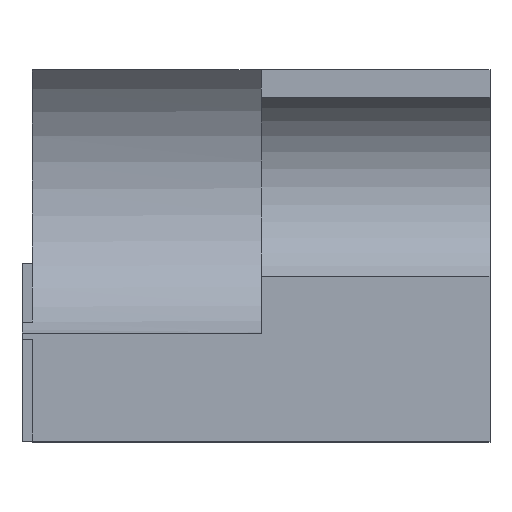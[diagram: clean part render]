
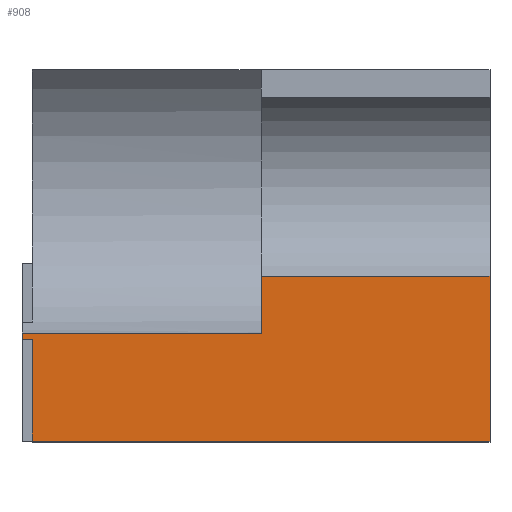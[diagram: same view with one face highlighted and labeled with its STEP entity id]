
A CAD part, top view. The second image highlights one B-rep face of the part: STEP entity #908.
In plain terms, the highlighted planar face has unit normal (0, 0, 1).
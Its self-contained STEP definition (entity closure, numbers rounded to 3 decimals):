
#62 = PLANE('',#63);
#63 = AXIS2_PLACEMENT_3D('',#64,#65,#66);
#64 = CARTESIAN_POINT('',(-46.5,-21.3,28.5));
#65 = DIRECTION('',(0.,1.,0.));
#66 = DIRECTION('',(0.,-0.,1.));
#216 = VERTEX_POINT('',#217);
#217 = CARTESIAN_POINT('',(-46.5,-21.3,-24.));
#231 = PLANE('',#232);
#232 = AXIS2_PLACEMENT_3D('',#233,#234,#235);
#233 = CARTESIAN_POINT('',(-46.5,-21.3,-38.));
#234 = DIRECTION('',(1.,0.,0.));
#235 = DIRECTION('',(0.,0.,1.));
#243 = EDGE_CURVE('',#216,#244,#246,.T.);
#244 = VERTEX_POINT('',#245);
#245 = CARTESIAN_POINT('',(-37.5,-21.3,-24.));
#246 = SURFACE_CURVE('',#247,(#251,#257),.PCURVE_S1.);
#247 = LINE('',#248,#249);
#248 = CARTESIAN_POINT('',(-49.25,-21.3,-24.));
#249 = VECTOR('',#250,1.);
#250 = DIRECTION('',(1.,0.,0.));
#251 = PCURVE('',#62,#252);
#252 = DEFINITIONAL_REPRESENTATION('',(#253),#256);
#253 = B_SPLINE_CURVE_WITH_KNOTS('',1,(#254,#255),.UNSPECIFIED.,.F.,.F.,
  (2,2),(2.55,11.75),.PIECEWISE_BEZIER_KNOTS.);
#254 = CARTESIAN_POINT('',(-52.5,-0.2));
#255 = CARTESIAN_POINT('',(-52.5,9.));
#256 = ( GEOMETRIC_REPRESENTATION_CONTEXT(2) 
PARAMETRIC_REPRESENTATION_CONTEXT() REPRESENTATION_CONTEXT('2D SPACE',''
  ) );
#257 = PCURVE('',#258,#263);
#258 = PLANE('',#259);
#259 = AXIS2_PLACEMENT_3D('',#260,#261,#262);
#260 = CARTESIAN_POINT('',(-52.,-28.,-24.));
#261 = DIRECTION('',(0.,0.,1.));
#262 = DIRECTION('',(1.,0.,0.));
#263 = DEFINITIONAL_REPRESENTATION('',(#264),#267);
#264 = B_SPLINE_CURVE_WITH_KNOTS('',1,(#265,#266),.UNSPECIFIED.,.F.,.F.,
  (2,2),(2.55,11.75),.PIECEWISE_BEZIER_KNOTS.);
#265 = CARTESIAN_POINT('',(5.3,6.7));
#266 = CARTESIAN_POINT('',(14.5,6.7));
#267 = ( GEOMETRIC_REPRESENTATION_CONTEXT(2) 
PARAMETRIC_REPRESENTATION_CONTEXT() REPRESENTATION_CONTEXT('2D SPACE',''
  ) );
#285 = PLANE('',#286);
#286 = AXIS2_PLACEMENT_3D('',#287,#288,#289);
#287 = CARTESIAN_POINT('',(-37.5,-21.3,-38.));
#288 = DIRECTION('',(1.,0.,0.));
#289 = DIRECTION('',(0.,0.,1.));
#779 = EDGE_CURVE('',#780,#244,#782,.T.);
#780 = VERTEX_POINT('',#781);
#781 = CARTESIAN_POINT('',(-37.5,-18.061,-24.));
#782 = SURFACE_CURVE('',#783,(#787,#793),.PCURVE_S1.);
#783 = LINE('',#784,#785);
#784 = CARTESIAN_POINT('',(-37.5,-24.65,-24.));
#785 = VECTOR('',#786,1.);
#786 = DIRECTION('',(0.,-1.,0.));
#787 = PCURVE('',#285,#788);
#788 = DEFINITIONAL_REPRESENTATION('',(#789),#792);
#789 = B_SPLINE_CURVE_WITH_KNOTS('',1,(#790,#791),.UNSPECIFIED.,.F.,.F.,
  (2,2),(-10.65,-3.35),.PIECEWISE_BEZIER_KNOTS.);
#790 = CARTESIAN_POINT('',(14.,-7.3));
#791 = CARTESIAN_POINT('',(14.,0.));
#792 = ( GEOMETRIC_REPRESENTATION_CONTEXT(2) 
PARAMETRIC_REPRESENTATION_CONTEXT() REPRESENTATION_CONTEXT('2D SPACE',''
  ) );
#793 = PCURVE('',#258,#794);
#794 = DEFINITIONAL_REPRESENTATION('',(#795),#798);
#795 = B_SPLINE_CURVE_WITH_KNOTS('',1,(#796,#797),.UNSPECIFIED.,.F.,.F.,
  (2,2),(-10.65,-3.35),.PIECEWISE_BEZIER_KNOTS.);
#796 = CARTESIAN_POINT('',(14.5,14.));
#797 = CARTESIAN_POINT('',(14.5,6.7));
#798 = ( GEOMETRIC_REPRESENTATION_CONTEXT(2) 
PARAMETRIC_REPRESENTATION_CONTEXT() REPRESENTATION_CONTEXT('2D SPACE',''
  ) );
#897 = CYLINDRICAL_SURFACE('',#898,2.025);
#898 = AXIS2_PLACEMENT_3D('',#899,#900,#901);
#899 = CARTESIAN_POINT('',(-48.5,-16.3,-25.));
#900 = DIRECTION('',(1.,0.,0.));
#901 = DIRECTION('',(0.,0.,-1.));
#908 = ADVANCED_FACE('',(#909),#258,.T.);
#909 = FACE_BOUND('',#910,.T.);
#910 = EDGE_LOOP('',(#911,#932,#933,#934,#955,#981,#1007,#1033));
#911 = ORIENTED_EDGE('',*,*,#912,.T.);
#912 = EDGE_CURVE('',#913,#216,#915,.T.);
#913 = VERTEX_POINT('',#914);
#914 = CARTESIAN_POINT('',(-46.5,-19.3,-24.));
#915 = SURFACE_CURVE('',#916,(#920,#926),.PCURVE_S1.);
#916 = LINE('',#917,#918);
#917 = CARTESIAN_POINT('',(-46.5,-24.65,-24.));
#918 = VECTOR('',#919,1.);
#919 = DIRECTION('',(0.,-1.,0.));
#920 = PCURVE('',#258,#921);
#921 = DEFINITIONAL_REPRESENTATION('',(#922),#925);
#922 = B_SPLINE_CURVE_WITH_KNOTS('',1,(#923,#924),.UNSPECIFIED.,.F.,.F.,
  (2,2),(-10.65,-3.35),.PIECEWISE_BEZIER_KNOTS.);
#923 = CARTESIAN_POINT('',(5.5,14.));
#924 = CARTESIAN_POINT('',(5.5,6.7));
#925 = ( GEOMETRIC_REPRESENTATION_CONTEXT(2) 
PARAMETRIC_REPRESENTATION_CONTEXT() REPRESENTATION_CONTEXT('2D SPACE',''
  ) );
#926 = PCURVE('',#231,#927);
#927 = DEFINITIONAL_REPRESENTATION('',(#928),#931);
#928 = B_SPLINE_CURVE_WITH_KNOTS('',1,(#929,#930),.UNSPECIFIED.,.F.,.F.,
  (2,2),(-10.65,-3.35),.PIECEWISE_BEZIER_KNOTS.);
#929 = CARTESIAN_POINT('',(14.,-7.3));
#930 = CARTESIAN_POINT('',(14.,0.));
#931 = ( GEOMETRIC_REPRESENTATION_CONTEXT(2) 
PARAMETRIC_REPRESENTATION_CONTEXT() REPRESENTATION_CONTEXT('2D SPACE',''
  ) );
#932 = ORIENTED_EDGE('',*,*,#243,.T.);
#933 = ORIENTED_EDGE('',*,*,#779,.F.);
#934 = ORIENTED_EDGE('',*,*,#935,.F.);
#935 = EDGE_CURVE('',#936,#780,#938,.T.);
#936 = VERTEX_POINT('',#937);
#937 = CARTESIAN_POINT('',(-42.,-18.061,-24.));
#938 = SURFACE_CURVE('',#939,(#943,#949),.PCURVE_S1.);
#939 = LINE('',#940,#941);
#940 = CARTESIAN_POINT('',(-48.5,-18.061,-24.));
#941 = VECTOR('',#942,1.);
#942 = DIRECTION('',(1.,0.,0.));
#943 = PCURVE('',#258,#944);
#944 = DEFINITIONAL_REPRESENTATION('',(#945),#948);
#945 = B_SPLINE_CURVE_WITH_KNOTS('',1,(#946,#947),.UNSPECIFIED.,.F.,.F.,
  (2,2),(6.5,11.),.PIECEWISE_BEZIER_KNOTS.);
#946 = CARTESIAN_POINT('',(10.,9.939));
#947 = CARTESIAN_POINT('',(14.5,9.939));
#948 = ( GEOMETRIC_REPRESENTATION_CONTEXT(2) 
PARAMETRIC_REPRESENTATION_CONTEXT() REPRESENTATION_CONTEXT('2D SPACE',''
  ) );
#949 = PCURVE('',#897,#950);
#950 = DEFINITIONAL_REPRESENTATION('',(#951),#954);
#951 = B_SPLINE_CURVE_WITH_KNOTS('',1,(#952,#953),.UNSPECIFIED.,.F.,.F.,
  (2,2),(6.5,11.),.PIECEWISE_BEZIER_KNOTS.);
#952 = CARTESIAN_POINT('',(4.196,6.5));
#953 = CARTESIAN_POINT('',(4.196,11.));
#954 = ( GEOMETRIC_REPRESENTATION_CONTEXT(2) 
PARAMETRIC_REPRESENTATION_CONTEXT() REPRESENTATION_CONTEXT('2D SPACE',''
  ) );
#955 = ORIENTED_EDGE('',*,*,#956,.T.);
#956 = EDGE_CURVE('',#936,#957,#959,.T.);
#957 = VERTEX_POINT('',#958);
#958 = CARTESIAN_POINT('',(-42.,-19.181,-24.));
#959 = SURFACE_CURVE('',#960,(#964,#970),.PCURVE_S1.);
#960 = LINE('',#961,#962);
#961 = CARTESIAN_POINT('',(-42.,-22.15,-24.));
#962 = VECTOR('',#963,1.);
#963 = DIRECTION('',(0.,-1.,0.));
#964 = PCURVE('',#258,#965);
#965 = DEFINITIONAL_REPRESENTATION('',(#966),#969);
#966 = B_SPLINE_CURVE_WITH_KNOTS('',1,(#967,#968),.UNSPECIFIED.,.F.,.F.,
  (2,2),(-8.15,-2.8),.PIECEWISE_BEZIER_KNOTS.);
#967 = CARTESIAN_POINT('',(10.,14.));
#968 = CARTESIAN_POINT('',(10.,8.65));
#969 = ( GEOMETRIC_REPRESENTATION_CONTEXT(2) 
PARAMETRIC_REPRESENTATION_CONTEXT() REPRESENTATION_CONTEXT('2D SPACE',''
  ) );
#970 = PCURVE('',#971,#976);
#971 = PLANE('',#972);
#972 = AXIS2_PLACEMENT_3D('',#973,#974,#975);
#973 = CARTESIAN_POINT('',(-42.,-16.3,-25.));
#974 = DIRECTION('',(1.,0.,0.));
#975 = DIRECTION('',(0.,0.,-1.));
#976 = DEFINITIONAL_REPRESENTATION('',(#977),#980);
#977 = B_SPLINE_CURVE_WITH_KNOTS('',1,(#978,#979),.UNSPECIFIED.,.F.,.F.,
  (2,2),(-8.15,-2.8),.PIECEWISE_BEZIER_KNOTS.);
#978 = CARTESIAN_POINT('',(-1.,2.3));
#979 = CARTESIAN_POINT('',(-1.,-3.05));
#980 = ( GEOMETRIC_REPRESENTATION_CONTEXT(2) 
PARAMETRIC_REPRESENTATION_CONTEXT() REPRESENTATION_CONTEXT('2D SPACE',''
  ) );
#981 = ORIENTED_EDGE('',*,*,#982,.F.);
#982 = EDGE_CURVE('',#983,#957,#985,.T.);
#983 = VERTEX_POINT('',#984);
#984 = CARTESIAN_POINT('',(-46.7,-19.181,-24.));
#985 = SURFACE_CURVE('',#986,(#990,#996),.PCURVE_S1.);
#986 = LINE('',#987,#988);
#987 = CARTESIAN_POINT('',(-47.2,-19.181,-24.));
#988 = VECTOR('',#989,1.);
#989 = DIRECTION('',(1.,0.,0.));
#990 = PCURVE('',#258,#991);
#991 = DEFINITIONAL_REPRESENTATION('',(#992),#995);
#992 = B_SPLINE_CURVE_WITH_KNOTS('',1,(#993,#994),.UNSPECIFIED.,.F.,.F.,
  (2,2),(0.35,5.2),.PIECEWISE_BEZIER_KNOTS.);
#993 = CARTESIAN_POINT('',(5.15,8.819));
#994 = CARTESIAN_POINT('',(10.,8.819));
#995 = ( GEOMETRIC_REPRESENTATION_CONTEXT(2) 
PARAMETRIC_REPRESENTATION_CONTEXT() REPRESENTATION_CONTEXT('2D SPACE',''
  ) );
#996 = PCURVE('',#997,#1002);
#997 = CYLINDRICAL_SURFACE('',#998,3.05);
#998 = AXIS2_PLACEMENT_3D('',#999,#1000,#1001);
#999 = CARTESIAN_POINT('',(-47.2,-16.3,-25.));
#1000 = DIRECTION('',(1.,0.,0.));
#1001 = DIRECTION('',(0.,0.,-1.));
#1002 = DEFINITIONAL_REPRESENTATION('',(#1003),#1006);
#1003 = B_SPLINE_CURVE_WITH_KNOTS('',1,(#1004,#1005),.UNSPECIFIED.,.F.,
  .F.,(2,2),(0.5,5.2),.PIECEWISE_BEZIER_KNOTS.);
#1004 = CARTESIAN_POINT('',(4.378,0.5));
#1005 = CARTESIAN_POINT('',(4.378,5.2));
#1006 = ( GEOMETRIC_REPRESENTATION_CONTEXT(2) 
PARAMETRIC_REPRESENTATION_CONTEXT() REPRESENTATION_CONTEXT('2D SPACE',''
  ) );
#1007 = ORIENTED_EDGE('',*,*,#1008,.T.);
#1008 = EDGE_CURVE('',#983,#1009,#1011,.T.);
#1009 = VERTEX_POINT('',#1010);
#1010 = CARTESIAN_POINT('',(-46.7,-19.3,-24.));
#1011 = SURFACE_CURVE('',#1012,(#1016,#1022),.PCURVE_S1.);
#1012 = LINE('',#1013,#1014);
#1013 = CARTESIAN_POINT('',(-46.7,-24.9,-24.));
#1014 = VECTOR('',#1015,1.);
#1015 = DIRECTION('',(0.,-1.,0.));
#1016 = PCURVE('',#258,#1017);
#1017 = DEFINITIONAL_REPRESENTATION('',(#1018),#1021);
#1018 = B_SPLINE_CURVE_WITH_KNOTS('',1,(#1019,#1020),.UNSPECIFIED.,.F.,
  .F.,(2,2),(-5.944,-5.6),.PIECEWISE_BEZIER_KNOTS.);
#1019 = CARTESIAN_POINT('',(5.3,9.044));
#1020 = CARTESIAN_POINT('',(5.3,8.7));
#1021 = ( GEOMETRIC_REPRESENTATION_CONTEXT(2) 
PARAMETRIC_REPRESENTATION_CONTEXT() REPRESENTATION_CONTEXT('2D SPACE',''
  ) );
#1022 = PCURVE('',#1023,#1028);
#1023 = PLANE('',#1024);
#1024 = AXIS2_PLACEMENT_3D('',#1025,#1026,#1027);
#1025 = CARTESIAN_POINT('',(-46.7,-21.8,-35.));
#1026 = DIRECTION('',(1.,0.,0.));
#1027 = DIRECTION('',(0.,0.,1.));
#1028 = DEFINITIONAL_REPRESENTATION('',(#1029),#1032);
#1029 = B_SPLINE_CURVE_WITH_KNOTS('',1,(#1030,#1031),.UNSPECIFIED.,.F.,
  .F.,(2,2),(-5.944,-5.6),.PIECEWISE_BEZIER_KNOTS.);
#1030 = CARTESIAN_POINT('',(11.,-2.844));
#1031 = CARTESIAN_POINT('',(11.,-2.5));
#1032 = ( GEOMETRIC_REPRESENTATION_CONTEXT(2) 
PARAMETRIC_REPRESENTATION_CONTEXT() REPRESENTATION_CONTEXT('2D SPACE',''
  ) );
#1033 = ORIENTED_EDGE('',*,*,#1034,.T.);
#1034 = EDGE_CURVE('',#1009,#913,#1035,.T.);
#1035 = SURFACE_CURVE('',#1036,(#1040,#1046),.PCURVE_S1.);
#1036 = LINE('',#1037,#1038);
#1037 = CARTESIAN_POINT('',(-49.5,-19.3,-24.));
#1038 = VECTOR('',#1039,1.);
#1039 = DIRECTION('',(1.,0.,0.));
#1040 = PCURVE('',#258,#1041);
#1041 = DEFINITIONAL_REPRESENTATION('',(#1042),#1045);
#1042 = B_SPLINE_CURVE_WITH_KNOTS('',1,(#1043,#1044),.UNSPECIFIED.,.F.,
  .F.,(2,2),(2.8,3.),.PIECEWISE_BEZIER_KNOTS.);
#1043 = CARTESIAN_POINT('',(5.3,8.7));
#1044 = CARTESIAN_POINT('',(5.5,8.7));
#1045 = ( GEOMETRIC_REPRESENTATION_CONTEXT(2) 
PARAMETRIC_REPRESENTATION_CONTEXT() REPRESENTATION_CONTEXT('2D SPACE',''
  ) );
#1046 = PCURVE('',#1047,#1052);
#1047 = PLANE('',#1048);
#1048 = AXIS2_PLACEMENT_3D('',#1049,#1050,#1051);
#1049 = CARTESIAN_POINT('',(-47.,-19.3,-26.5));
#1050 = DIRECTION('',(0.,1.,0.));
#1051 = DIRECTION('',(0.,0.,1.));
#1052 = DEFINITIONAL_REPRESENTATION('',(#1053),#1056);
#1053 = B_SPLINE_CURVE_WITH_KNOTS('',1,(#1054,#1055),.UNSPECIFIED.,.F.,
  .F.,(2,2),(2.8,3.),.PIECEWISE_BEZIER_KNOTS.);
#1054 = CARTESIAN_POINT('',(2.5,0.3));
#1055 = CARTESIAN_POINT('',(2.5,0.5));
#1056 = ( GEOMETRIC_REPRESENTATION_CONTEXT(2) 
PARAMETRIC_REPRESENTATION_CONTEXT() REPRESENTATION_CONTEXT('2D SPACE',''
  ) );
